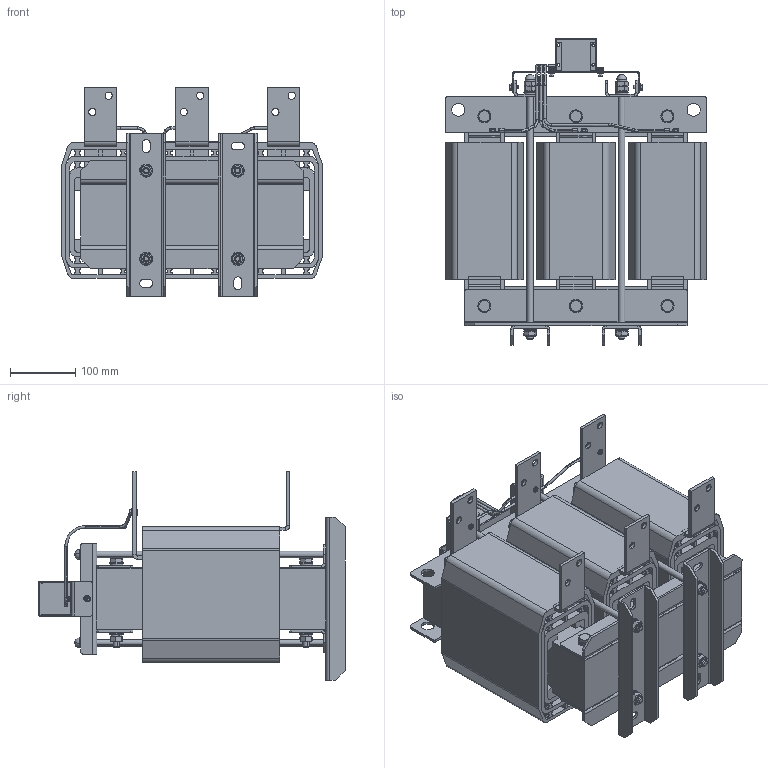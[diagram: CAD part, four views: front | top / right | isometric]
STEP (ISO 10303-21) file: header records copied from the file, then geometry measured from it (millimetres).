
FILE_DESCRIPTION (( 'STEP AP203' ), '1' );
FILE_NAME ('婰錪襝 dU_dT _ IDUDT-450_530-6.STEP', '2026-05-07T13:55:31', ( '' ), ( '' ), 'SwSTEP 2.0', 'SolidWorks 2021', '' );
FILE_SCHEMA (( 'CONFIG_CONTROL_DESIGN' ));
Length unit declared in the file: millimetre
Products named in the file (38): ﾊ煇鳫 ﾑ IDUDT-(400-450)-6; ﾑ褞蒟韭 IDUDT-(400-450)-6; 赶鎀 鳿鎀. L210; Êàòóøêà ñëîé 3 L2 IDUDT-(400-450)-6; Êîðïóñ Ñ IDUDT-(400-450)-6; Øèíà âûâîä. IDUDT-(400-450)-6; Êàòóøêà ñëîé 3 L3 IDUDT-(400-450)-6; Êàòóøêà L2 IDUDT-(400-450)-6; Øàéáà ïëîñêàÿ DIN 125 (A)_Œ10; Ïëàñòèíà ïðèæèìíàÿ IDUDT-(400-450)-6; Øïèëüêà DIN 976_Œ10å400; Êàòóøêà L1 IDUDT-(400-450)-6; 咈櫡 IDUDT-(400-450)-6; 电容引线-85-500A_1; 嵙縺 瞁鍱. IDUDT-(400-450)-6; Êàòóøêà ñëîé 3 L1 IDUDT-(400-450)-6; Øâåëëåð îïîðíûé IDUDT-(400-450)-6; Êàòóøêà L3 IDUDT-(400-450)-6; Êàòóøêà ñëîé 2 IDUDT-(400-450)-6; Ïðîñòàâêà èçîë. L210; Âèíò êîìáèíèðîâàííûé øåñòèãðàííûé PH_Œ5å10; Øàéáà ïëîñêàÿ DIN 125 (A)_Œ5; 电容引线-85-500A; Áîëò DIN 933_Œ10å130; Øâåëëåð ñòÿæíîé IDUDT-(400-450)-6; Ãàéêà DIN 1587_Œ10; Êàòóøêà ñëîé 1 IDUDT-(400-450)-6; Ãàéêà DIN 934_Œ10; Ïëàñòèíà êðåïåæíàÿ IDUDT-(400-450)-6; Ïðîñòàâêà èçîë. ñðåä. L210; 婰錪襝 dU_dT _ IDUDT-450_530-6; Øàéáà ïðóæèííàÿ DIN 127 (A)_Œ10; 电容引线-85-500A_2; RNB5.5-5; Ãàéêà çàïðåññîâî÷íàÿ S_0
Assembly tree (183 placements, depth 4):
  婰錪襝 dU_dT _ IDUDT-450_530-6
    ﾑ褞蒟韭 IDUDT-(400-450)-6
    Ïëàñòèíà êðåïåæíàÿ IDUDT-(400-450)-6  x6
    Ïëàñòèíà ïðèæèìíàÿ IDUDT-(400-450)-6  x2
    咈櫡 IDUDT-(400-450)-6  x2
    Øâåëëåð îïîðíûé IDUDT-(400-450)-6  x2
    Øâåëëåð ñòÿæíîé IDUDT-(400-450)-6  x2
    Êàòóøêà L3 IDUDT-(400-450)-6
      赶鎀 鳿鎀. L210  x4
      Ïðîñòàâêà èçîë. L210  x8
      Êàòóøêà ñëîé 1 IDUDT-(400-450)-6
      Ïðîñòàâêà èçîë. ñðåä. L210  x4
      Êàòóøêà ñëîé 2 IDUDT-(400-450)-6
      Êàòóøêà ñëîé 3 L3 IDUDT-(400-450)-6
      Øèíà âûâîä. IDUDT-(400-450)-6
        Øèíà âûâîä. IDUDT-(400-450)-6
        Ãàéêà çàïðåññîâî÷íàÿ S_0
      嵙縺 瞁鍱. IDUDT-(400-450)-6
    ﾊ煇鳫 ﾑ IDUDT-(400-450)-6
      ﾊ煇鳫 ﾑ IDUDT-(400-450)-6
      Ãàéêà çàïðåññîâî÷íàÿ S_0  x2
    Êîðïóñ Ñ IDUDT-(400-450)-6
    RNB5.5-5  x3
    电容引线-85-500A
      电容引线-85-500A
      电容引线-85-500A_1
      电容引线-85-500A_2
    Áîëò DIN 933_Œ10å130  x6
    Øàéáà ïëîñêàÿ DIN 125 (A)_Œ10  x32
    Øàéáà ïëîñêàÿ DIN 125 (A)_Œ5  x7
    Øàéáà ïðóæèííàÿ DIN 127 (A)_Œ10  x14
    Ãàéêà DIN 934_Œ10  x14
    Øïèëüêà DIN 976_Œ10å400  x4
    Ãàéêà DIN 1587_Œ10  x4
    Âèíò êîìáèíèðîâàííûé øåñòèãðàííûé PH_Œ5å10  x7
    Êàòóøêà L1 IDUDT-(400-450)-6
      赶鎀 鳿鎀. L210  x4
      Ïðîñòàâêà èçîë. L210  x8
      Êàòóøêà ñëîé 1 IDUDT-(400-450)-6
      Ïðîñòàâêà èçîë. ñðåä. L210  x4
      Êàòóøêà ñëîé 2 IDUDT-(400-450)-6
      Êàòóøêà ñëîé 3 L1 IDUDT-(400-450)-6
      Øèíà âûâîä. IDUDT-(400-450)-6
        Øèíà âûâîä. IDUDT-(400-450)-6
        Ãàéêà çàïðåññîâî÷íàÿ S_0
      嵙縺 瞁鍱. IDUDT-(400-450)-6
    Êàòóøêà L2 IDUDT-(400-450)-6
      赶鎀 鳿鎀. L210  x4
      Ïðîñòàâêà èçîë. L210  x8
      Êàòóøêà ñëîé 1 IDUDT-(400-450)-6
      Ïðîñòàâêà èçîë. ñðåä. L210  x4
      Êàòóøêà ñëîé 2 IDUDT-(400-450)-6
      Êàòóøêà ñëîé 3 L2 IDUDT-(400-450)-6
      Øèíà âûâîä. IDUDT-(400-450)-6
        Øèíà âûâîä. IDUDT-(400-450)-6
        Ãàéêà çàïðåññîâî÷íàÿ S_0
      嵙縺 瞁鍱. IDUDT-(400-450)-6
Bounding box: 400.15 x 469 x 319.5 mm (x, y, z)
Volume: 17082849.6 mm3; surface area: 3835676.8 mm2
Topology: 179 solids, 179 shells, 3988 faces, 9795 edges, 6229 vertices
Faces by surface type: plane 2004, cylinder 1250, cone 664, torus 44, bspline 26
Entity records: 39074 total; most frequent: CARTESIAN_POINT 6020, DIRECTION 5622, ORIENTED_EDGE 4938, EDGE_CURVE 2469, AXIS2_PLACEMENT_3D 2049, VERTEX_POINT 1547, LINE 1524, VECTOR 1524
